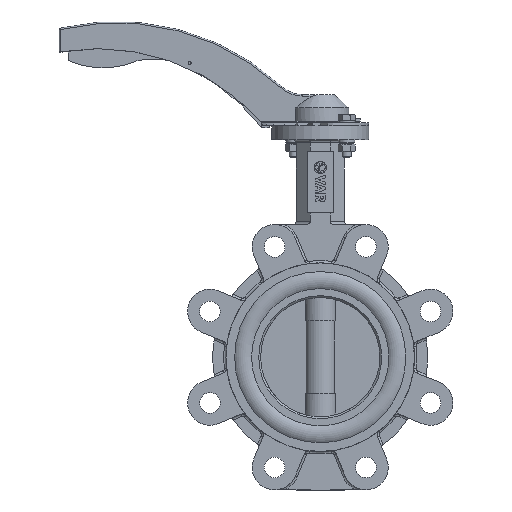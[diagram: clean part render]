
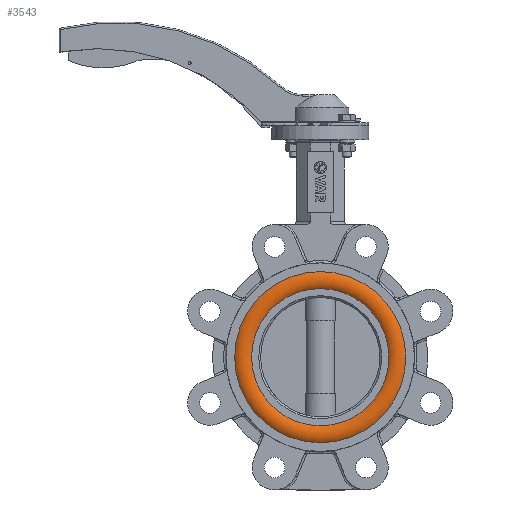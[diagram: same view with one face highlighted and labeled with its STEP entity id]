
A CAD part, left-side view. The second image highlights one B-rep face of the part: STEP entity #3543.
In plain terms, the highlighted toroidal (fillet/blend) face has major radius 51.667 mm and minor radius 9.221 mm.
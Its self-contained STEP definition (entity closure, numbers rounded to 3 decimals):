
#3543=ADVANCED_FACE('',(#7572,#7574),#7576,.T.);
#7572=FACE_OUTER_BOUND('',#7573,.T.);
#7573=EDGE_LOOP('',(#12166));
#7574=FACE_OUTER_BOUND('',#7575,.T.);
#7575=EDGE_LOOP('',(#12167));
#7576=TOROIDAL_SURFACE('',#7577,51.667,9.221);
#7577=AXIS2_PLACEMENT_3D('',#7578,#7579,#7580);
#7578=CARTESIAN_POINT('',(-15.526,0.,0.));
#7579=DIRECTION('',(-1.,0.,0.));
#7580=DIRECTION('',(0.,0.,1.));
#12166=ORIENTED_EDGE('',*,*,#14164,.T.);
#12167=ORIENTED_EDGE('',*,*,#14160,.F.);
#14160=EDGE_CURVE('',#16768,#16768,#16769,.T.);
#14164=EDGE_CURVE('',#16776,#16776,#16777,.T.);
#16768=VERTEX_POINT('',#25092);
#16769=CIRCLE('',#25093,46.);
#16776=VERTEX_POINT('',#25112);
#16777=CIRCLE('',#25113,57.333);
#25092=CARTESIAN_POINT('',(-22.8,0.,46.));
#25093=AXIS2_PLACEMENT_3D('',#25094,#25095,#25096);
#25094=CARTESIAN_POINT('',(-22.8,0.,0.));
#25095=DIRECTION('',(-1.,0.,0.));
#25096=DIRECTION('',(0.,0.,1.));
#25112=CARTESIAN_POINT('',(-22.8,0.,57.333));
#25113=AXIS2_PLACEMENT_3D('',#25114,#25115,#25116);
#25114=CARTESIAN_POINT('',(-22.8,0.,0.));
#25115=DIRECTION('',(-1.,0.,0.));
#25116=DIRECTION('',(0.,0.,1.));
